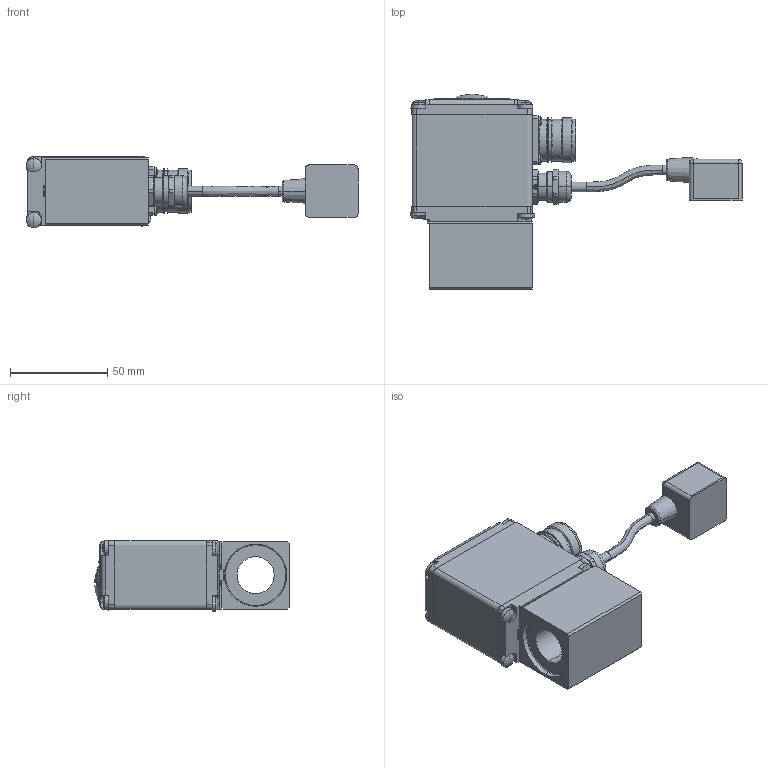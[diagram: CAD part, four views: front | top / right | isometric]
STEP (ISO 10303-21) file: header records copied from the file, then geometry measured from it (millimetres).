
FILE_DESCRIPTION (( 'STEP AP214' ), '1' );
FILE_NAME ('ME35_19x50-...A.STEP', '2014-04-03T08:52:25', ( '' ), ( '' ), 'SwSTEP 2.0', 'SolidWorks 2012', '' );
FILE_SCHEMA (( 'AUTOMOTIVE_DESIGN' ));
Length unit declared in the file: millimetre
Products named in the file (1): ME35_19x50-...A
Bounding box: 170.6 x 100.39 x 36.78 mm (x, y, z)
Volume: 209944.7 mm3; surface area: 38574 mm2
Topology: 4 solids, 4 shells, 2299 faces, 6458 edges, 4237 vertices
Faces by surface type: plane 1548, cylinder 372, torus 130, cone 111, bspline 92, sphere 46
Entity records: 81933 total; most frequent: CARTESIAN_POINT 19558, ORIENTED_EDGE 12896, DIRECTION 11381, EDGE_CURVE 6448, LINE 4553, VECTOR 4553, VERTEX_POINT 4237, AXIS2_PLACEMENT_3D 3414
